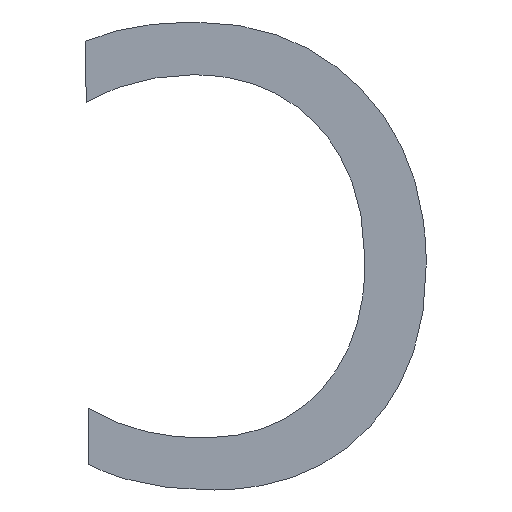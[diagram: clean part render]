
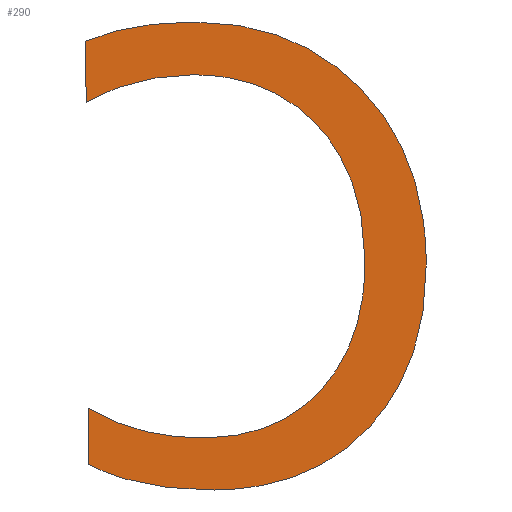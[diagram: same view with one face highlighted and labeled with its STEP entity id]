
A CAD part, front view. The second image highlights one B-rep face of the part: STEP entity #290.
In plain terms, the highlighted planar face has unit normal (0, -1, 0).
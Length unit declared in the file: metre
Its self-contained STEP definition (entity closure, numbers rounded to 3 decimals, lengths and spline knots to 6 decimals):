
#24=LINE('',#481,#42);
#25=LINE('',#513,#43);
#42=VECTOR('',#424,1.);
#43=VECTOR('',#425,1.);
#60=ORIENTED_EDGE('',*,*,#144,.F.);
#61=ORIENTED_EDGE('',*,*,#145,.F.);
#62=ORIENTED_EDGE('',*,*,#146,.F.);
#63=ORIENTED_EDGE('',*,*,#147,.F.);
#64=ORIENTED_EDGE('',*,*,#148,.F.);
#65=ORIENTED_EDGE('',*,*,#149,.F.);
#66=ORIENTED_EDGE('',*,*,#150,.F.);
#67=ORIENTED_EDGE('',*,*,#151,.F.);
#68=ORIENTED_EDGE('',*,*,#152,.F.);
#69=ORIENTED_EDGE('',*,*,#153,.F.);
#70=ORIENTED_EDGE('',*,*,#154,.F.);
#71=ORIENTED_EDGE('',*,*,#155,.F.);
#72=ORIENTED_EDGE('',*,*,#156,.F.);
#73=ORIENTED_EDGE('',*,*,#157,.F.);
#144=EDGE_CURVE('',#186,#187,#214,.T.);
#145=EDGE_CURVE('',#188,#186,#215,.T.);
#146=EDGE_CURVE('',#189,#188,#216,.T.);
#147=EDGE_CURVE('',#190,#189,#217,.T.);
#148=EDGE_CURVE('',#191,#190,#218,.T.);
#149=EDGE_CURVE('',#192,#191,#219,.T.);
#150=EDGE_CURVE('',#193,#192,#24,.T.);
#151=EDGE_CURVE('',#194,#193,#220,.T.);
#152=EDGE_CURVE('',#195,#194,#221,.T.);
#153=EDGE_CURVE('',#196,#195,#222,.T.);
#154=EDGE_CURVE('',#197,#196,#223,.T.);
#155=EDGE_CURVE('',#198,#197,#224,.T.);
#156=EDGE_CURVE('',#199,#198,#225,.T.);
#157=EDGE_CURVE('',#187,#199,#25,.T.);
#186=VERTEX_POINT('',#454);
#187=VERTEX_POINT('',#455);
#188=VERTEX_POINT('',#460);
#189=VERTEX_POINT('',#465);
#190=VERTEX_POINT('',#470);
#191=VERTEX_POINT('',#475);
#192=VERTEX_POINT('',#480);
#193=VERTEX_POINT('',#482);
#194=VERTEX_POINT('',#487);
#195=VERTEX_POINT('',#492);
#196=VERTEX_POINT('',#497);
#197=VERTEX_POINT('',#502);
#198=VERTEX_POINT('',#507);
#199=VERTEX_POINT('',#512);
#214=B_SPLINE_CURVE_WITH_KNOTS('',3,(#450,#451,#452,#453),.UNSPECIFIED.,
 .F.,.F.,(4,4),(0.,1.),.UNSPECIFIED.);
#215=B_SPLINE_CURVE_WITH_KNOTS('',3,(#456,#457,#458,#459),.UNSPECIFIED.,
 .F.,.F.,(4,4),(1.,2.),.UNSPECIFIED.);
#216=B_SPLINE_CURVE_WITH_KNOTS('',3,(#461,#462,#463,#464),.UNSPECIFIED.,
 .F.,.F.,(4,4),(2.,3.),.UNSPECIFIED.);
#217=B_SPLINE_CURVE_WITH_KNOTS('',3,(#466,#467,#468,#469),.UNSPECIFIED.,
 .F.,.F.,(4,4),(3.,4.),.UNSPECIFIED.);
#218=B_SPLINE_CURVE_WITH_KNOTS('',3,(#471,#472,#473,#474),.UNSPECIFIED.,
 .F.,.F.,(4,4),(4.,5.),.UNSPECIFIED.);
#219=B_SPLINE_CURVE_WITH_KNOTS('',3,(#476,#477,#478,#479),.UNSPECIFIED.,
 .F.,.F.,(4,4),(5.,6.),.UNSPECIFIED.);
#220=B_SPLINE_CURVE_WITH_KNOTS('',3,(#483,#484,#485,#486),.UNSPECIFIED.,
 .F.,.F.,(4,4),(7.,8.),.UNSPECIFIED.);
#221=B_SPLINE_CURVE_WITH_KNOTS('',3,(#488,#489,#490,#491),.UNSPECIFIED.,
 .F.,.F.,(4,4),(8.,9.),.UNSPECIFIED.);
#222=B_SPLINE_CURVE_WITH_KNOTS('',3,(#493,#494,#495,#496),.UNSPECIFIED.,
 .F.,.F.,(4,4),(9.,10.),.UNSPECIFIED.);
#223=B_SPLINE_CURVE_WITH_KNOTS('',3,(#498,#499,#500,#501),.UNSPECIFIED.,
 .F.,.F.,(4,4),(10.,11.),.UNSPECIFIED.);
#224=B_SPLINE_CURVE_WITH_KNOTS('',3,(#503,#504,#505,#506),.UNSPECIFIED.,
 .F.,.F.,(4,4),(11.,12.),.UNSPECIFIED.);
#225=B_SPLINE_CURVE_WITH_KNOTS('',3,(#508,#509,#510,#511),.UNSPECIFIED.,
 .F.,.F.,(4,4),(12.,13.),.UNSPECIFIED.);
#238=EDGE_LOOP('',(#60,#61,#62,#63,#64,#65,#66,#67,#68,#69,#70,#71,#72,
#73));
#254=FACE_BOUND('',#238,.T.);
#270=PLANE('',#416);
#290=ADVANCED_FACE('',(#254),#270,.F.);
#416=AXIS2_PLACEMENT_3D('',#449,#422,#423);
#422=DIRECTION('',(0.,1.,0.));
#423=DIRECTION('',(0.,0.,1.));
#424=DIRECTION('',(-0.007,0.,1.));
#425=DIRECTION('',(-0.007,0.,1.));
#449=CARTESIAN_POINT('',(-0.078595,-0.053656,0.028745));
#450=CARTESIAN_POINT('',(-0.078533,-0.053656,0.028739));
#451=CARTESIAN_POINT('',(-0.078578,-0.053656,0.028739));
#452=CARTESIAN_POINT('',(-0.078616,-0.053656,0.028747));
#453=CARTESIAN_POINT('',(-0.078646,-0.053656,0.028762));
#454=CARTESIAN_POINT('',(-0.078533,-0.053656,0.028739));
#455=CARTESIAN_POINT('',(-0.078646,-0.053656,0.028762));
#456=CARTESIAN_POINT('',(-0.078394,-0.053656,0.028796));
#457=CARTESIAN_POINT('',(-0.078428,-0.053656,0.028759));
#458=CARTESIAN_POINT('',(-0.078475,-0.053656,0.02874));
#459=CARTESIAN_POINT('',(-0.078533,-0.053656,0.028739));
#460=CARTESIAN_POINT('',(-0.078394,-0.053656,0.028796));
#461=CARTESIAN_POINT('',(-0.078343,-0.053656,0.028943));
#462=CARTESIAN_POINT('',(-0.078342,-0.053656,0.028882));
#463=CARTESIAN_POINT('',(-0.078359,-0.053656,0.028833));
#464=CARTESIAN_POINT('',(-0.078394,-0.053656,0.028796));
#465=CARTESIAN_POINT('',(-0.078343,-0.053656,0.028943));
#466=CARTESIAN_POINT('',(-0.078402,-0.053656,0.029101));
#467=CARTESIAN_POINT('',(-0.078363,-0.053656,0.029061));
#468=CARTESIAN_POINT('',(-0.078343,-0.053656,0.029009));
#469=CARTESIAN_POINT('',(-0.078343,-0.053656,0.028943));
#470=CARTESIAN_POINT('',(-0.078402,-0.053656,0.029101));
#471=CARTESIAN_POINT('',(-0.078552,-0.053656,0.02916));
#472=CARTESIAN_POINT('',(-0.078492,-0.053656,0.02916));
#473=CARTESIAN_POINT('',(-0.078442,-0.053656,0.029141));
#474=CARTESIAN_POINT('',(-0.078402,-0.053656,0.029101));
#475=CARTESIAN_POINT('',(-0.078552,-0.053656,0.02916));
#476=CARTESIAN_POINT('',(-0.078649,-0.053656,0.029142));
#477=CARTESIAN_POINT('',(-0.078623,-0.053656,0.029154));
#478=CARTESIAN_POINT('',(-0.078591,-0.053656,0.029159));
#479=CARTESIAN_POINT('',(-0.078552,-0.053656,0.02916));
#480=CARTESIAN_POINT('',(-0.078649,-0.053656,0.029142));
#481=CARTESIAN_POINT('',(-0.078649,-0.053656,0.029142));
#482=CARTESIAN_POINT('',(-0.078648,-0.053656,0.029087));
#483=CARTESIAN_POINT('',(-0.078552,-0.053656,0.029112));
#484=CARTESIAN_POINT('',(-0.078587,-0.053656,0.029112));
#485=CARTESIAN_POINT('',(-0.078619,-0.053656,0.029104));
#486=CARTESIAN_POINT('',(-0.078648,-0.053656,0.029087));
#487=CARTESIAN_POINT('',(-0.078552,-0.053656,0.029112));
#488=CARTESIAN_POINT('',(-0.078441,-0.053656,0.029068));
#489=CARTESIAN_POINT('',(-0.07847,-0.053656,0.029098));
#490=CARTESIAN_POINT('',(-0.078507,-0.053656,0.029113));
#491=CARTESIAN_POINT('',(-0.078552,-0.053656,0.029112));
#492=CARTESIAN_POINT('',(-0.078441,-0.053656,0.029068));
#493=CARTESIAN_POINT('',(-0.078398,-0.053656,0.028946));
#494=CARTESIAN_POINT('',(-0.078398,-0.053656,0.028997));
#495=CARTESIAN_POINT('',(-0.078413,-0.053656,0.029038));
#496=CARTESIAN_POINT('',(-0.078441,-0.053656,0.029068));
#497=CARTESIAN_POINT('',(-0.078398,-0.053656,0.028946));
#498=CARTESIAN_POINT('',(-0.078437,-0.053656,0.02883));
#499=CARTESIAN_POINT('',(-0.07841,-0.053656,0.028859));
#500=CARTESIAN_POINT('',(-0.078397,-0.053656,0.028897));
#501=CARTESIAN_POINT('',(-0.078398,-0.053656,0.028946));
#502=CARTESIAN_POINT('',(-0.078437,-0.053656,0.02883));
#503=CARTESIAN_POINT('',(-0.078541,-0.053656,0.028786));
#504=CARTESIAN_POINT('',(-0.078498,-0.053656,0.028786));
#505=CARTESIAN_POINT('',(-0.078463,-0.053656,0.028801));
#506=CARTESIAN_POINT('',(-0.078437,-0.053656,0.02883));
#507=CARTESIAN_POINT('',(-0.078541,-0.053656,0.028786));
#508=CARTESIAN_POINT('',(-0.078646,-0.053656,0.028813));
#509=CARTESIAN_POINT('',(-0.078616,-0.053656,0.028795));
#510=CARTESIAN_POINT('',(-0.078581,-0.053656,0.028786));
#511=CARTESIAN_POINT('',(-0.078541,-0.053656,0.028786));
#512=CARTESIAN_POINT('',(-0.078646,-0.053656,0.028813));
#513=CARTESIAN_POINT('',(-0.078646,-0.053656,0.028813));
